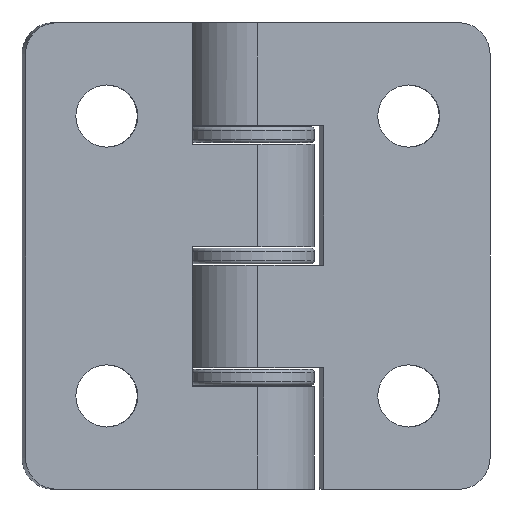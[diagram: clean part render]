
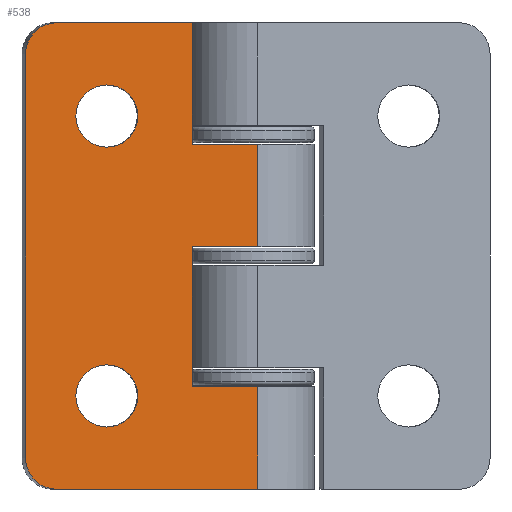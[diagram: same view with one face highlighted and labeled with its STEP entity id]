
A CAD part, front view. The second image highlights one B-rep face of the part: STEP entity #538.
In plain terms, the highlighted planar face has unit normal (0.092, -0.996, 0) as drawn and (0, -1, 0) by its records, which use the part's own axes.
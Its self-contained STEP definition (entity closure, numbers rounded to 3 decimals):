
#47=FACE_BOUND('',#141,.T.);
#48=FACE_BOUND('',#142,.T.);
#61=PLANE('',#602);
#102=FACE_OUTER_BOUND('',#140,.T.);
#140=EDGE_LOOP('',(#484,#485,#486,#487,#488,#489,#490,#491,#492,#493,#494,
#495));
#141=EDGE_LOOP('',(#496));
#142=EDGE_LOOP('',(#497));
#159=LINE('',#893,#190);
#162=LINE('',#902,#193);
#164=LINE('',#908,#195);
#168=LINE('',#919,#199);
#174=LINE('',#955,#205);
#176=LINE('',#961,#207);
#178=LINE('',#964,#209);
#179=LINE('',#966,#210);
#180=LINE('',#968,#211);
#181=LINE('',#970,#212);
#190=VECTOR('',#673,26.);
#193=VECTOR('',#684,13.);
#195=VECTOR('',#690,6.6);
#199=VECTOR('',#700,9.);
#205=VECTOR('',#742,6.6);
#207=VECTOR('',#748,7.8);
#209=VECTOR('',#752,4.25);
#210=VECTOR('',#755,4.25);
#211=VECTOR('',#758,4.25);
#212=VECTOR('',#761,8.75);
#227=CIRCLE('',#570,2.);
#233=CIRCLE('',#582,2.);
#235=CIRCLE('',#586,2.);
#237=CIRCLE('',#590,2.);
#271=VERTEX_POINT('',#890);
#272=VERTEX_POINT('',#892);
#273=VERTEX_POINT('',#896);
#274=VERTEX_POINT('',#900);
#276=VERTEX_POINT('',#906);
#279=VERTEX_POINT('',#916);
#280=VERTEX_POINT('',#918);
#283=VERTEX_POINT('',#928);
#285=VERTEX_POINT('',#935);
#287=VERTEX_POINT('',#941);
#291=VERTEX_POINT('',#952);
#292=VERTEX_POINT('',#954);
#293=VERTEX_POINT('',#958);
#294=VERTEX_POINT('',#960);
#326=EDGE_CURVE('',#271,#272,#159,.T.);
#329=EDGE_CURVE('',#273,#271,#227,.T.);
#331=EDGE_CURVE('',#273,#274,#162,.T.);
#334=EDGE_CURVE('',#274,#276,#164,.T.);
#339=EDGE_CURVE('',#280,#279,#168,.T.);
#344=EDGE_CURVE('',#272,#283,#233,.T.);
#347=EDGE_CURVE('',#285,#285,#235,.T.);
#349=EDGE_CURVE('',#287,#287,#237,.T.);
#355=EDGE_CURVE('',#292,#291,#174,.T.);
#358=EDGE_CURVE('',#294,#293,#176,.T.);
#360=EDGE_CURVE('',#291,#294,#178,.T.);
#361=EDGE_CURVE('',#276,#280,#179,.T.);
#362=EDGE_CURVE('',#279,#292,#180,.T.);
#363=EDGE_CURVE('',#283,#293,#181,.T.);
#484=ORIENTED_EDGE('',*,*,#329,.F.);
#485=ORIENTED_EDGE('',*,*,#331,.T.);
#486=ORIENTED_EDGE('',*,*,#334,.T.);
#487=ORIENTED_EDGE('',*,*,#361,.T.);
#488=ORIENTED_EDGE('',*,*,#339,.T.);
#489=ORIENTED_EDGE('',*,*,#362,.T.);
#490=ORIENTED_EDGE('',*,*,#355,.T.);
#491=ORIENTED_EDGE('',*,*,#360,.T.);
#492=ORIENTED_EDGE('',*,*,#358,.T.);
#493=ORIENTED_EDGE('',*,*,#363,.F.);
#494=ORIENTED_EDGE('',*,*,#344,.F.);
#495=ORIENTED_EDGE('',*,*,#326,.F.);
#496=ORIENTED_EDGE('',*,*,#347,.T.);
#497=ORIENTED_EDGE('',*,*,#349,.T.);
#538=ADVANCED_FACE('',(#102,#47,#48),#61,.T.);
#570=AXIS2_PLACEMENT_3D('',#898,#678,#679);
#582=AXIS2_PLACEMENT_3D('',#929,#711,#712);
#586=AXIS2_PLACEMENT_3D('',#936,#720,#721);
#590=AXIS2_PLACEMENT_3D('',#942,#728,#729);
#602=AXIS2_PLACEMENT_3D('',#971,#762,#763);
#673=DIRECTION('',(0.,0.,1.));
#678=DIRECTION('center_axis',(0.,1.,0.));
#679=DIRECTION('ref_axis',(-0.707,0.,-0.707));
#684=DIRECTION('',(1.,0.,0.));
#690=DIRECTION('',(0.,0.,1.));
#700=DIRECTION('',(0.,0.,1.));
#711=DIRECTION('center_axis',(0.,1.,0.));
#712=DIRECTION('ref_axis',(-0.707,0.,0.707));
#720=DIRECTION('center_axis',(0.,1.,0.));
#721=DIRECTION('ref_axis',(1.,0.,0.));
#728=DIRECTION('center_axis',(0.,1.,0.));
#729=DIRECTION('ref_axis',(1.,0.,0.));
#742=DIRECTION('',(0.,0.,1.));
#748=DIRECTION('',(0.,0.,1.));
#752=DIRECTION('',(-1.,0.,0.));
#755=DIRECTION('',(-1.,0.,0.));
#758=DIRECTION('',(1.,0.,0.));
#761=DIRECTION('',(1.,0.,0.));
#762=DIRECTION('center_axis',(0.,-1.,0.));
#763=DIRECTION('ref_axis',(1.,0.,0.));
#890=CARTESIAN_POINT('',(0.,0.,2.));
#892=CARTESIAN_POINT('',(0.,0.,28.));
#893=CARTESIAN_POINT('',(0.,0.,0.));
#896=CARTESIAN_POINT('',(2.,0.,0.));
#898=CARTESIAN_POINT('Origin',(2.,0.,2.));
#900=CARTESIAN_POINT('',(15.,0.,0.));
#902=CARTESIAN_POINT('',(0.,0.,0.));
#906=CARTESIAN_POINT('',(15.,0.,6.6));
#908=CARTESIAN_POINT('',(15.,0.,0.));
#916=CARTESIAN_POINT('',(10.75,0.,15.6));
#918=CARTESIAN_POINT('',(10.75,0.,6.6));
#919=CARTESIAN_POINT('',(10.75,0.,3.3));
#928=CARTESIAN_POINT('',(2.,0.,30.));
#929=CARTESIAN_POINT('Origin',(2.,0.,28.));
#935=CARTESIAN_POINT('',(3.25,0.,6.));
#936=CARTESIAN_POINT('Origin',(5.25,0.,6.));
#941=CARTESIAN_POINT('',(3.25,0.,24.));
#942=CARTESIAN_POINT('Origin',(5.25,0.,24.));
#952=CARTESIAN_POINT('',(15.,0.,22.2));
#954=CARTESIAN_POINT('',(15.,0.,15.6));
#955=CARTESIAN_POINT('',(15.,0.,0.));
#958=CARTESIAN_POINT('',(10.75,0.,30.));
#960=CARTESIAN_POINT('',(10.75,0.,22.2));
#961=CARTESIAN_POINT('',(10.75,0.,11.1));
#964=CARTESIAN_POINT('',(9.5,0.,22.2));
#966=CARTESIAN_POINT('',(9.5,0.,6.6));
#968=CARTESIAN_POINT('',(5.375,0.,15.6));
#970=CARTESIAN_POINT('',(0.,0.,30.));
#971=CARTESIAN_POINT('Origin',(0.,0.,0.));
